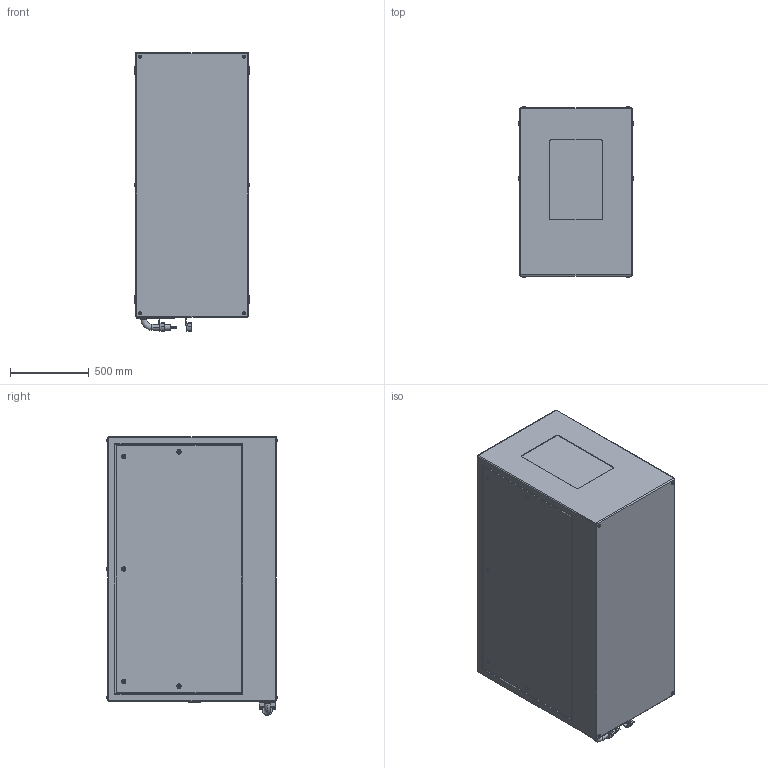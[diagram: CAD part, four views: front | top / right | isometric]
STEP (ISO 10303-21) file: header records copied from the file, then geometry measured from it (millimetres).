
FILE_DESCRIPTION (( 'STEP AP214' ), '1' );
FILE_NAME ('Oasis 59.525.P R02.STEP', '2022-09-12T23:50:21', ( '' ), ( '' ), 'SwSTEP 2.0', 'SolidWorks 2020', '' );
FILE_SCHEMA (( 'AUTOMOTIVE_DESIGN' ));
Length unit declared in the file: inch
Products named in the file (1): Oasis 59.525.P R02
Bounding box: 723.9 x 1084.07 x 1765.3 mm (x, y, z)
Volume: 1270631214.8 mm3; surface area: 8135035.2 mm2
Topology: 3 solids, 9 shells, 570 faces, 1303 edges, 828 vertices
Faces by surface type: plane 315, cylinder 193, torus 54, bspline 8
Entity records: 21911 total; most frequent: CARTESIAN_POINT 3214, DIRECTION 2847, ORIENTED_EDGE 2590, EDGE_CURVE 1295, AXIS2_PLACEMENT_3D 1021, VERTEX_POINT 828, VECTOR 805, LINE 805
